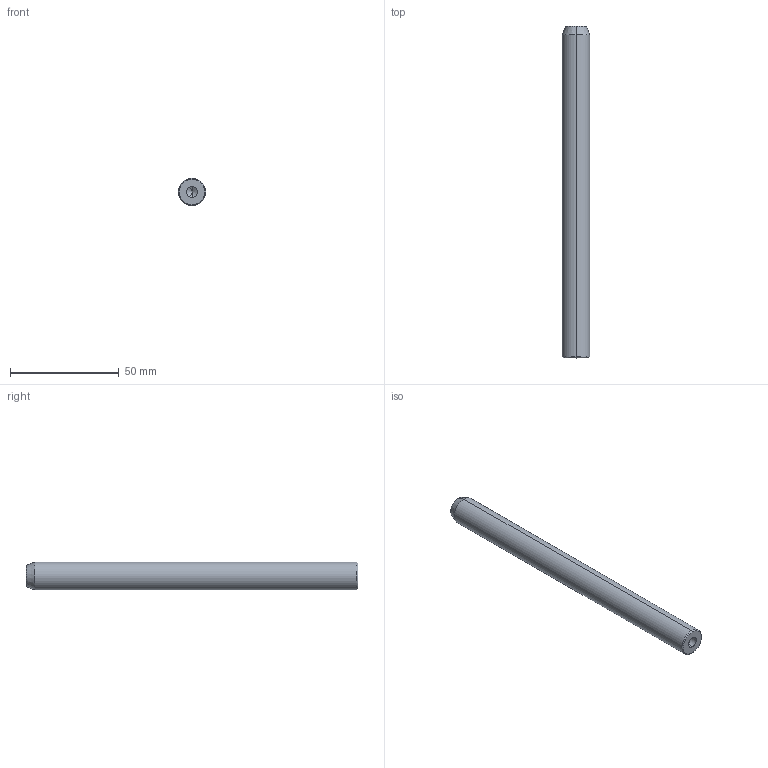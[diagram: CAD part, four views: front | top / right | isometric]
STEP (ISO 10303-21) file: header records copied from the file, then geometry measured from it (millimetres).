
FILE_DESCRIPTION (( 'STEP AP203' ), '1' );
FILE_NAME ('(STEP)M-PD-6.STEP', '2020-05-06T05:29:41', ( '' ), ( '' ), 'SwSTEP 2.0', 'SolidWorks 2019', '' );
FILE_SCHEMA (( 'CONFIG_CONTROL_DESIGN' ));
Length unit declared in the file: millimetre
Products named in the file (1): (STEP)M-PD-6
Bounding box: 12.7 x 152.4 x 12.7 mm (x, y, z)
Volume: 18868.1 mm3; surface area: 6536.4 mm2
Topology: 1 solids, 1 shells, 18 faces, 38 edges, 20 vertices
Faces by surface type: cone 8, cylinder 6, torus 2, plane 2
Entity records: 531 total; most frequent: DIRECTION 92, CARTESIAN_POINT 73, ORIENTED_EDGE 68, AXIS2_PLACEMENT_3D 39, EDGE_CURVE 34, CIRCLE 20, VERTEX_POINT 20, EDGE_LOOP 20
